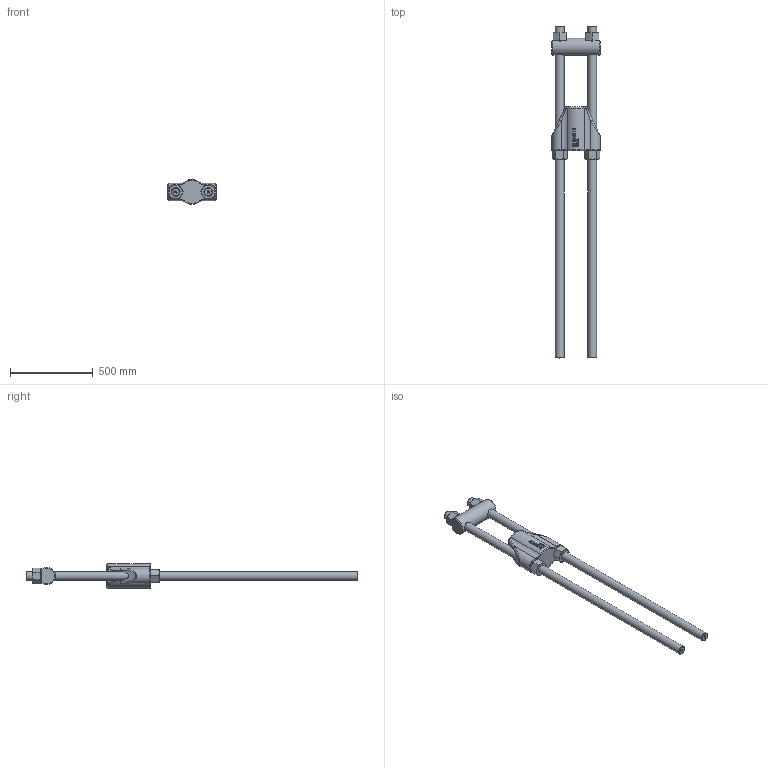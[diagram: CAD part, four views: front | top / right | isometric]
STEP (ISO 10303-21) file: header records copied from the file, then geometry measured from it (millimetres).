
FILE_DESCRIPTION(/* description */ (''),/* implementation_level */ '2;1');
FILE_NAME(/* name */ 'D:\Clienti\Redaelli (inventor)\BRC\STEP\Arrangemet\BRC048 72 111 0.stp',/* time_stamp */ '2021-05-08T08:26:52+02:00',/* author */ ('fabri'),/* organization */ (''),/* preprocessor_version */ 'ST-DEVELOPER v16.13',/* originating_system */ 'Autodesk Inventor 2018',/* authorisation */ '');
FILE_SCHEMA (('AUTOMOTIVE_DESIGN { 1 0 10303 214 3 1 1 }'));
Length unit declared in the file: millimetre
Products named in the file (5): BRC020 72 111 0; BRC020 71 112 0; BRC020 71 114 0_ROD; BRC020 71 113 0; BRC020 71 114 0_NUT
Assembly tree (8 placements, depth 2):
  BRC020 72 111 0
    BRC020 71 112 0
    BRC020 71 114 0_ROD  x2
    BRC020 71 113 0
    BRC020 71 114 0_NUT  x4
Bounding box: 292 x 2000 x 150 mm (x, y, z)
Volume: 17147219.2 mm3; surface area: 1169999.1 mm2
Topology: 8 solids, 8 shells, 1578 faces, 4140 edges, 2728 vertices
Faces by surface type: plane 787, bspline 655, cone 62, cylinder 50, torus 20, sphere 4
Full cylindrical faces by diameter (mm): 48.752 x4, 52 x2, 55 x4, 104 x1
Entity records: 30507 total; most frequent: CARTESIAN_POINT 11594, ORIENTED_EDGE 4466, DIRECTION 2731, EDGE_CURVE 2233, VERTEX_POINT 1478, LINE 1255, VECTOR 1255, EDGE_LOOP 957
